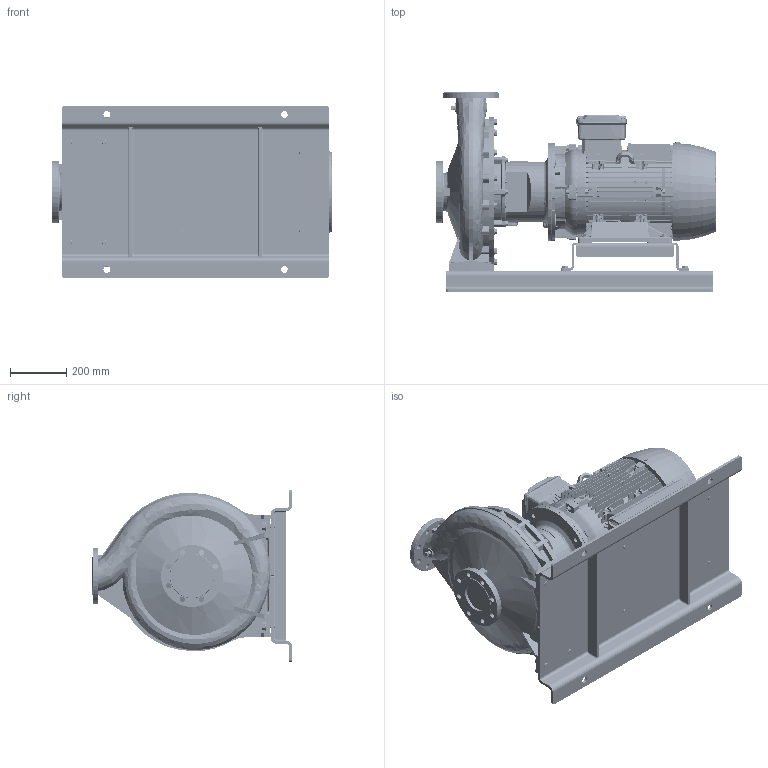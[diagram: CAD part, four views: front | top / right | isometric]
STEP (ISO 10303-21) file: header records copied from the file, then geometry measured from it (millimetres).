
FILE_DESCRIPTION (( 'STEP AP214' ), '1' );
FILE_NAME ('GSD4 80-400_22_(180ML)_W21_BP.STEP', '2026-05-08T06:30:19', ( '' ), ( '' ), 'SwSTEP 2.0', 'SolidWorks 2024', '' );
FILE_SCHEMA (( 'AUTOMOTIVE_DESIGN' ));
Length unit declared in the file: millimetre
Products named in the file (13): Parametric Flat Washer_M16; Parametric bolt and washer_SFT-A353B; GSD4 80-400_22_(180ML)_W21_BP; CGS11-5264; Parametric bolt and washer_SFT-A305B; Parametric bolt_SFT-A305B; 80-400-180M_L_ﾃﾞﾌｫﾙﾄ; 180M_L ALIE3_W21T_B35; Parametric Flat Washer_M12; Parametric bolt and washer_SFT-A297B; Parametric bolt_SFT-A297B; N7S3 GSDA-736 F1-1832949-00; Parametric bolt_SFT-A353B
Assembly tree (22 placements, depth 3):
  GSD4 80-400_22_(180ML)_W21_BP
    80-400-180M_L_ﾃﾞﾌｫﾙﾄ
    N7S3 GSDA-736 F1-1832949-00
    CGS11-5264
    Parametric bolt and washer_SFT-A297B  x4
      Parametric bolt_SFT-A297B
      Parametric Flat Washer_M12
    Parametric bolt and washer_SFT-A353B  x4
      Parametric bolt_SFT-A353B
      Parametric Flat Washer_M16
    Parametric bolt and washer_SFT-A305B  x4
      Parametric bolt_SFT-A305B
      Parametric Flat Washer_M12
    180M_L ALIE3_W21T_B35
Bounding box: 994.8 x 710 x 610 mm (x, y, z)
Volume: 88783996.6 mm3; surface area: 5978672.7 mm2
Topology: 59 solids, 60 shells, 7030 faces, 18236 edges, 11789 vertices
Faces by surface type: plane 4045, cylinder 1473, cone 702, bspline 460, torus 334, sphere 16
Entity records: 254879 total; most frequent: CARTESIAN_POINT 102658, ORIENTED_EDGE 33468, DIRECTION 28410, EDGE_CURVE 16734, VERTEX_POINT 10820, VECTOR 10240, LINE 10240, AXIS2_PLACEMENT_3D 9085
